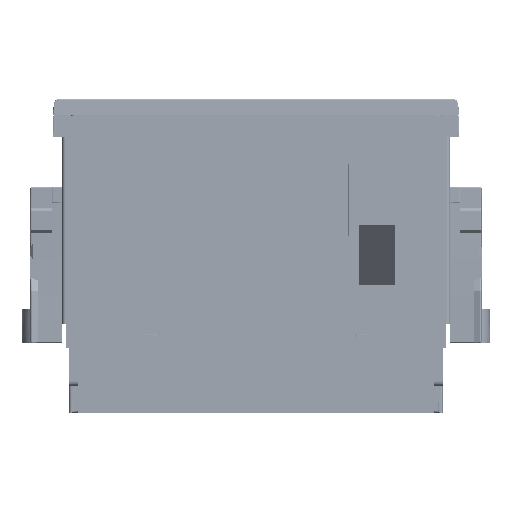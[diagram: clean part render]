
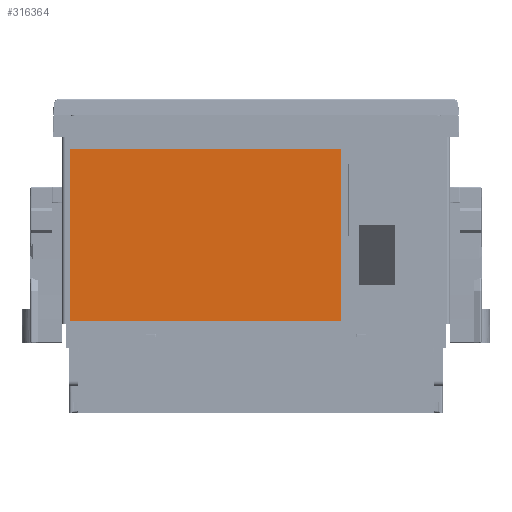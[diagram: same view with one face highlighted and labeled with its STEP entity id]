
A CAD part, left-side view. The second image highlights one B-rep face of the part: STEP entity #316364.
In plain terms, the highlighted planar face has unit normal (-1, 0, 0).
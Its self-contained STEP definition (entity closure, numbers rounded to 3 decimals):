
#4637 = EDGE_CURVE ( 'NONE', #156369, #127792, #280995, .T. ) ;
#26681 = LINE ( 'NONE', #271131, #239193 ) ;
#46908 = DIRECTION ( 'NONE',  ( 0., 0., 1. ) ) ;
#52772 = CARTESIAN_POINT ( 'NONE',  ( -22.3, 44., -49.85 ) ) ;
#53529 = CARTESIAN_POINT ( 'NONE',  ( -22.3, -20., -9.35 ) ) ;
#59891 = FACE_OUTER_BOUND ( 'NONE', #197405, .T. ) ;
#66030 = CARTESIAN_POINT ( 'NONE',  ( -22.3, -20., -49.85 ) ) ;
#70286 = LINE ( 'NONE', #350753, #291625 ) ;
#74742 = CARTESIAN_POINT ( 'NONE',  ( -22.3, -20., -49.85 ) ) ;
#93913 = PLANE ( 'NONE',  #209956 ) ;
#96285 = DIRECTION ( 'NONE',  ( 0., 0., 1. ) ) ;
#99348 = ORIENTED_EDGE ( 'NONE', *, *, #248470, .T. ) ;
#127792 = VERTEX_POINT ( 'NONE', #53529 ) ;
#129459 = VERTEX_POINT ( 'NONE', #52772 ) ;
#129848 = EDGE_CURVE ( 'NONE', #254260, #129459, #70286, .T. ) ;
#130493 = EDGE_CURVE ( 'NONE', #127792, #254260, #217358, .T. ) ;
#134062 = DIRECTION ( 'NONE',  ( 0., -1., 0. ) ) ;
#156369 = VERTEX_POINT ( 'NONE', #356770 ) ;
#168454 = ORIENTED_EDGE ( 'NONE', *, *, #130493, .T. ) ;
#169539 = ORIENTED_EDGE ( 'NONE', *, *, #129848, .T. ) ;
#197405 = EDGE_LOOP ( 'NONE', ( #99348, #296379, #168454, #169539 ) ) ;
#208687 = VECTOR ( 'NONE', #335661, 1000. ) ;
#209956 = AXIS2_PLACEMENT_3D ( 'NONE', #66030, #262396, #96285 ) ;
#217358 = LINE ( 'NONE', #307722, #208687 ) ;
#239193 = VECTOR ( 'NONE', #134062, 1000. ) ;
#248470 = EDGE_CURVE ( 'NONE', #129459, #156369, #26681, .T. ) ;
#254260 = VERTEX_POINT ( 'NONE', #301693 ) ;
#262396 = DIRECTION ( 'NONE',  ( -1., 0., 0. ) ) ;
#268251 = DIRECTION ( 'NONE',  ( 0., 0., -1. ) ) ;
#271131 = CARTESIAN_POINT ( 'NONE',  ( -22.3, 44., -49.85 ) ) ;
#280995 = LINE ( 'NONE', #74742, #346105 ) ;
#291625 = VECTOR ( 'NONE', #268251, 1000. ) ;
#296379 = ORIENTED_EDGE ( 'NONE', *, *, #4637, .T. ) ;
#301693 = CARTESIAN_POINT ( 'NONE',  ( -22.3, 44., -9.35 ) ) ;
#307722 = CARTESIAN_POINT ( 'NONE',  ( -22.3, 44., -9.35 ) ) ;
#316364 = ADVANCED_FACE ( 'NONE', ( #59891 ), #93913, .T. ) ;
#335661 = DIRECTION ( 'NONE',  ( 0., 1., 0. ) ) ;
#346105 = VECTOR ( 'NONE', #46908, 1000. ) ;
#350753 = CARTESIAN_POINT ( 'NONE',  ( -22.3, 44., -49.85 ) ) ;
#356770 = CARTESIAN_POINT ( 'NONE',  ( -22.3, -20., -49.85 ) ) ;
